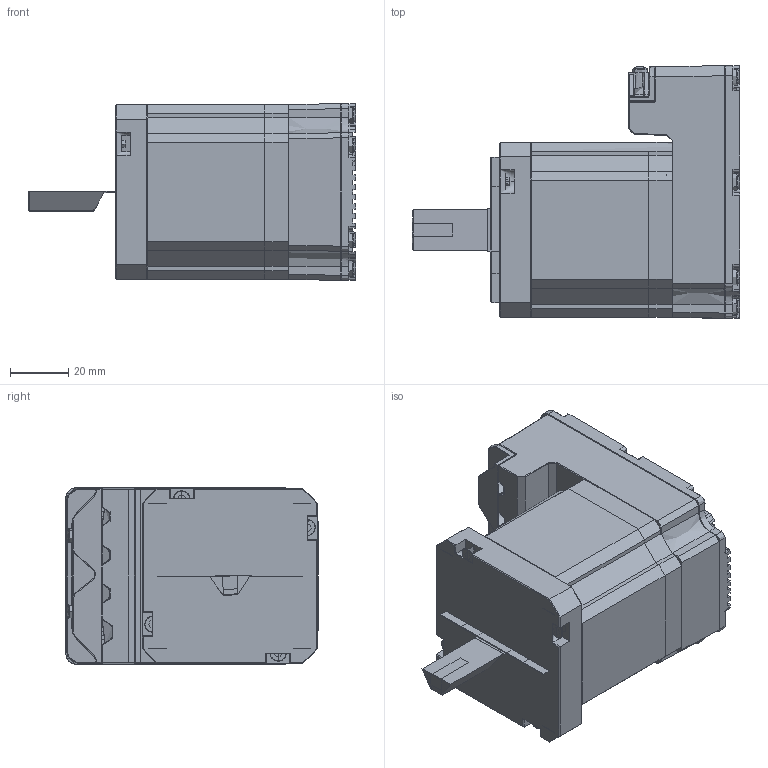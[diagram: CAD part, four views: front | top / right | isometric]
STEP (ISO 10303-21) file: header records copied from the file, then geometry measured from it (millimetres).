
FILE_DESCRIPTION (( 'STEP AP214' ), '1' );
FILE_NAME ('MMS76020BE-OB2PKN_REF 241029.STEP', '2024-10-30T02:50:11', ( '' ), ( '' ), 'SwSTEP 2.0', 'SolidWorks 2022', '' );
FILE_SCHEMA (( 'AUTOMOTIVE_DESIGN' ));
Length unit declared in the file: millimetre
Products named in the file (1): MMS76020BE-OB2PKN_REF 241029
Bounding box: 112.4 x 86.62 x 60.62 mm (x, y, z)
Topology: 0 solids, 240 shells, 1635 faces, 5582 edges, 4122 vertices
Faces by surface type: plane 707, cylinder 479, bspline 226, torus 130, sphere 50, cone 43
Full cylindrical faces by diameter (mm): 0.025 x4
Entity records: 89502 total; most frequent: CARTESIAN_POINT 29251, ORIENTED_EDGE 8293, DIRECTION 7543, EDGE_CURVE 5545, VERTEX_POINT 4100, AXIS2_PLACEMENT_3D 2869, B_SPLINE_CURVE_WITH_KNOTS 1979, VECTOR 1805
